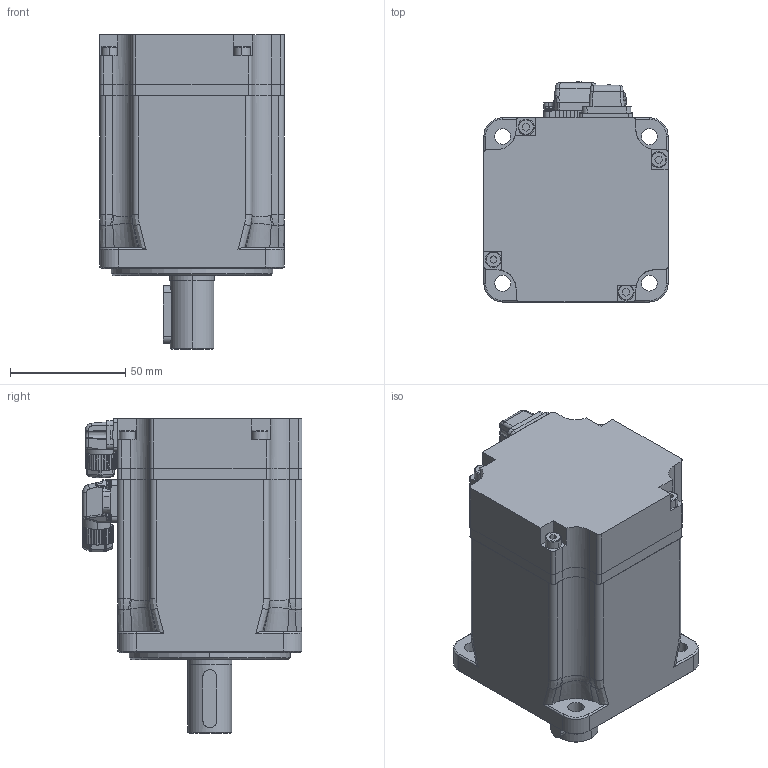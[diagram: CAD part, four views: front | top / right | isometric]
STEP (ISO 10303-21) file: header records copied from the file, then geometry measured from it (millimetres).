
FILE_DESCRIPTION (( 'STEP AP214' ), '1' );
FILE_NAME ('×°ÅäÌå9.STEP', '2023-11-03T12:07:49', ( 'muse' ), ( 'muse' ), 'SwSTEP 2.0', 'SolidWorks 2020', '' );
FILE_SCHEMA (( 'AUTOMOTIVE_DESIGN' ));
Length unit declared in the file: millimetre
Products named in the file (11): JM30伺服电机动力插头4+2P-小型斜口-散装(不含端子).stp; 80粣.stp; 伺服电机动力焊线底座4+2P小型斜口带线带刹车线(1).stp; JM30伺服电机编码器插头7P-小型斜口-散装(不含端子).stp; 80綴傷裔; 80す瑩; 蹟佪.stp; 80綴欶; 蚾饜极9; JM30伺服电机编码器焊线式底座7P小型斜口不带线(1).stp; 80儂旯
Assembly tree (13 placements, depth 2):
  蚾饜极9
    80綴傷裔
    80綴欶
    80す瑩
    80儂旯
    蹟佪.stp  x4
    80粣.stp
    JM30伺服电机编码器插头7P-小型斜口-散装(不含端子).stp
    JM30伺服电机编码器焊线式底座7P小型斜口不带线(1).stp
    JM30伺服电机动力插头4+2P-小型斜口-散装(不含端子).stp
    伺服电机动力焊线底座4+2P小型斜口带线带刹车线(1).stp
Bounding box: 80 x 95.47 x 136.5 mm (x, y, z)
Volume: 586691.2 mm3; surface area: 88325.6 mm2
Topology: 13 solids, 30 shells, 3576 faces, 9417 edges, 5991 vertices
Faces by surface type: plane 1967, cylinder 963, cone 311, bspline 174, torus 161
Entity records: 128434 total; most frequent: CARTESIAN_POINT 43358, ORIENTED_EDGE 18508, DIRECTION 16418, EDGE_CURVE 9254, VERTEX_POINT 5915, LINE 5680, VECTOR 5680, AXIS2_PLACEMENT_3D 5369
